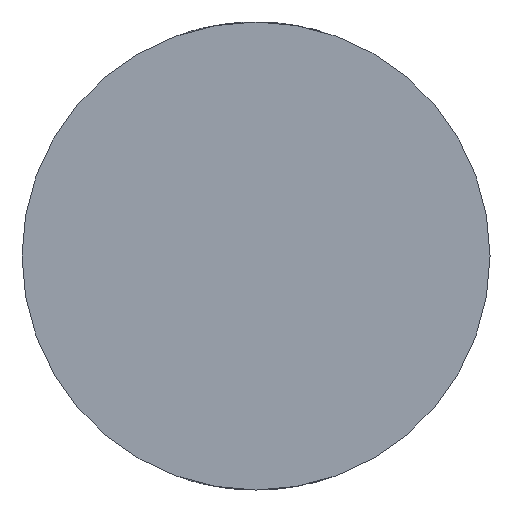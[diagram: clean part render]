
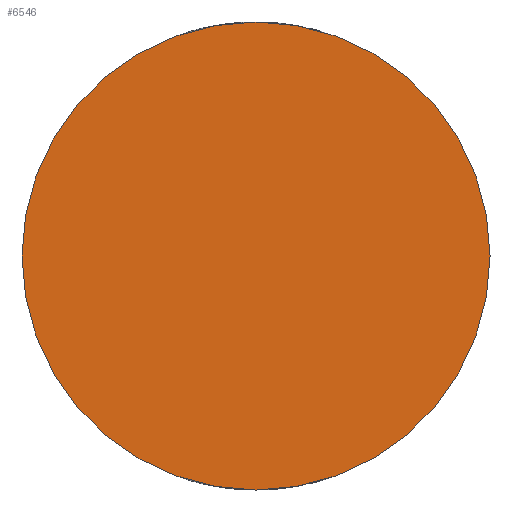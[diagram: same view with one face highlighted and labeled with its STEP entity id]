
A CAD part, front view. The second image highlights one B-rep face of the part: STEP entity #6546.
In plain terms, the highlighted planar face has unit normal (0, -1, 0).
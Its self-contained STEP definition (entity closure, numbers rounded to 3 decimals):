
#135 = CARTESIAN_POINT ( 'NONE',  ( 64., -46., 0. ) ) ;
#389 = DIRECTION ( 'NONE',  ( 0., -1., 0. ) ) ;
#574 = DIRECTION ( 'NONE',  ( 1., 0., 0. ) ) ;
#885 = DIRECTION ( 'NONE',  ( 1., 0., 0. ) ) ;
#1025 = EDGE_LOOP ( 'NONE', ( #6520, #3196 ) ) ;
#1196 = EDGE_CURVE ( 'NONE', #7340, #7302, #3685, .T. ) ;
#1905 = CARTESIAN_POINT ( 'NONE',  ( 0., -46., 0. ) ) ;
#2424 = EDGE_CURVE ( 'NONE', #7302, #7340, #3013, .T. ) ;
#2898 = AXIS2_PLACEMENT_3D ( 'NONE', #3665, #389, #885 ) ;
#3013 = CIRCLE ( 'NONE', #2898, 64. ) ;
#3147 = DIRECTION ( 'NONE',  ( 0., -1., 0. ) ) ;
#3196 = ORIENTED_EDGE ( 'NONE', *, *, #1196, .T. ) ;
#3665 = CARTESIAN_POINT ( 'NONE',  ( 0., -46., 0. ) ) ;
#3685 = CIRCLE ( 'NONE', #5700, 64. ) ;
#4427 = AXIS2_PLACEMENT_3D ( 'NONE', #1905, #3147, #5402 ) ;
#4806 = PLANE ( 'NONE',  #4427 ) ;
#5184 = CARTESIAN_POINT ( 'NONE',  ( 0., -46., 0. ) ) ;
#5402 = DIRECTION ( 'NONE',  ( 1., 0., 0. ) ) ;
#5700 = AXIS2_PLACEMENT_3D ( 'NONE', #5184, #6762, #574 ) ;
#5917 = FACE_OUTER_BOUND ( 'NONE', #1025, .T. ) ;
#6520 = ORIENTED_EDGE ( 'NONE', *, *, #2424, .T. ) ;
#6546 = ADVANCED_FACE ( 'NONE', ( #5917 ), #4806, .T. ) ;
#6762 = DIRECTION ( 'NONE',  ( 0., -1., 0. ) ) ;
#6789 = CARTESIAN_POINT ( 'NONE',  ( -64., -46., 0. ) ) ;
#7302 = VERTEX_POINT ( 'NONE', #6789 ) ;
#7340 = VERTEX_POINT ( 'NONE', #135 ) ;
